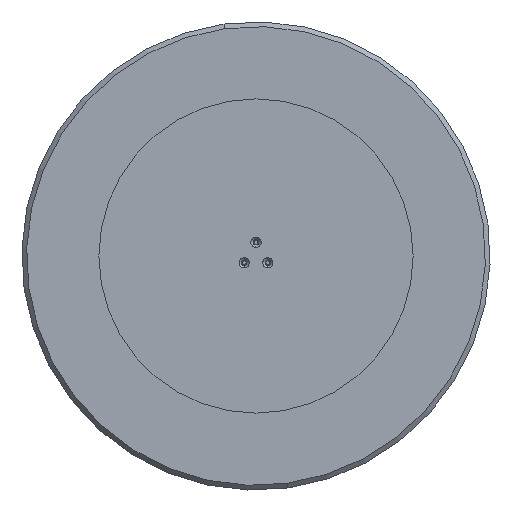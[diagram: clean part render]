
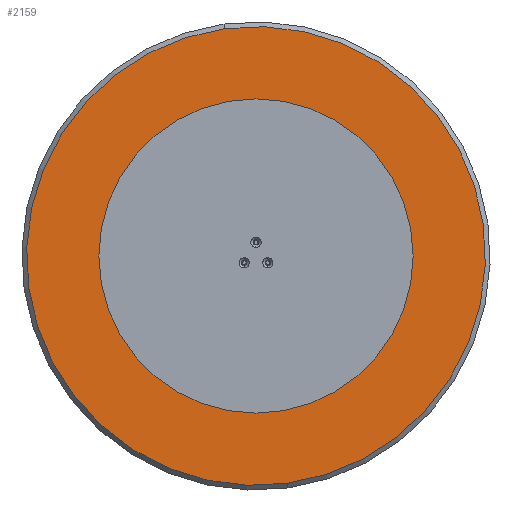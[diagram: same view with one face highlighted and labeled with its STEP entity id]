
A CAD part, front view. The second image highlights one B-rep face of the part: STEP entity #2159.
In plain terms, the highlighted planar face has unit normal (0, -1, 0).
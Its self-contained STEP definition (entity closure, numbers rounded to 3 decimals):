
#99 = DIRECTION ( 'NONE',  ( 0., 0., -1. ) ) ;
#182 = AXIS2_PLACEMENT_3D ( 'NONE', #2289, #3117, #3510 ) ;
#192 = EDGE_CURVE ( 'NONE', #1371, #2083, #691, .T. ) ;
#228 = CARTESIAN_POINT ( 'NONE',  ( 0., 0., 387. ) ) ;
#555 = FACE_OUTER_BOUND ( 'NONE', #1651, .T. ) ;
#691 = CIRCLE ( 'NONE', #765, 387. ) ;
#694 = CARTESIAN_POINT ( 'NONE',  ( 0., 0., -387. ) ) ;
#765 = AXIS2_PLACEMENT_3D ( 'NONE', #2521, #3453, #99 ) ;
#786 = ORIENTED_EDGE ( 'NONE', *, *, #192, .T. ) ;
#1243 = DIRECTION ( 'NONE',  ( 0., -1., 0. ) ) ;
#1371 = VERTEX_POINT ( 'NONE', #694 ) ;
#1651 = EDGE_LOOP ( 'NONE', ( #1652, #786 ) ) ;
#1652 = ORIENTED_EDGE ( 'NONE', *, *, #1821, .T. ) ;
#1810 = PLANE ( 'NONE',  #1906 ) ;
#1821 = EDGE_CURVE ( 'NONE', #2083, #1371, #1917, .T. ) ;
#1906 = AXIS2_PLACEMENT_3D ( 'NONE', #3095, #1243, #3012 ) ;
#1917 = CIRCLE ( 'NONE', #182, 387. ) ;
#2083 = VERTEX_POINT ( 'NONE', #228 ) ;
#2159 = ADVANCED_FACE ( 'NONE', ( #555 ), #1810, .T. ) ;
#2289 = CARTESIAN_POINT ( 'NONE',  ( 0., 0., 0. ) ) ;
#2521 = CARTESIAN_POINT ( 'NONE',  ( 0., 0., 0. ) ) ;
#3012 = DIRECTION ( 'NONE',  ( 0., 0., -1. ) ) ;
#3095 = CARTESIAN_POINT ( 'NONE',  ( 0., 0., 0. ) ) ;
#3117 = DIRECTION ( 'NONE',  ( 0., -1., 0. ) ) ;
#3453 = DIRECTION ( 'NONE',  ( 0., -1., 0. ) ) ;
#3510 = DIRECTION ( 'NONE',  ( 0., 0., -1. ) ) ;
